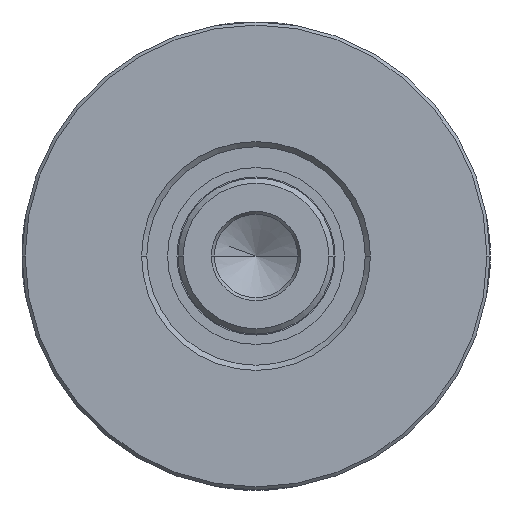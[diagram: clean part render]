
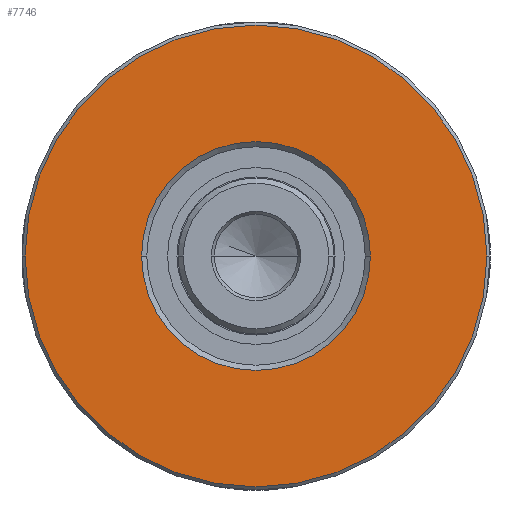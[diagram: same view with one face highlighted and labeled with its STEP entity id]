
A CAD part, left-side view. The second image highlights one B-rep face of the part: STEP entity #7746.
In plain terms, the highlighted planar face has unit normal (-1, 0, 0).
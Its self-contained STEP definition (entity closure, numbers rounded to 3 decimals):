
#7191=CARTESIAN_POINT('',(-3.,0.,0.));
#7192=DIRECTION('',(-1.,0.,0.));
#7193=DIRECTION('',(0.,1.,0.));
#7194=AXIS2_PLACEMENT_3D('',#7191,#7192,#7193);
#7199=CARTESIAN_POINT('',(-3.,0.,0.));
#7200=DIRECTION('',(1.,0.,0.));
#7201=DIRECTION('',(0.,1.,0.));
#7202=AXIS2_PLACEMENT_3D('',#7199,#7200,#7201);
#7207=CARTESIAN_POINT('',(-3.,0.,0.));
#7208=DIRECTION('',(1.,0.,0.));
#7209=DIRECTION('',(0.,1.,0.));
#7210=AXIS2_PLACEMENT_3D('',#7207,#7208,#7209);
#7229=CARTESIAN_POINT('',(-3.,0.,0.));
#7230=DIRECTION('',(-1.,0.,0.));
#7231=DIRECTION('',(0.,1.,0.));
#7232=AXIS2_PLACEMENT_3D('',#7229,#7230,#7231);
#7301=CARTESIAN_POINT('',(-3.,11.,0.));
#7302=VERTEX_POINT('',#7301);
#7303=CARTESIAN_POINT('',(-3.,-11.,0.));
#7304=VERTEX_POINT('',#7303);
#7305=CARTESIAN_POINT('',(-3.,22.2,0.));
#7306=VERTEX_POINT('',#7305);
#7307=CARTESIAN_POINT('',(-3.,-22.2,0.));
#7308=VERTEX_POINT('',#7307);
#7731=CARTESIAN_POINT('',(-3.,0.,0.));
#7732=DIRECTION('',(1.,0.,0.));
#7733=DIRECTION('',(0.,-1.,0.));
#7734=AXIS2_PLACEMENT_3D('',#7731,#7732,#7733);
#7735=PLANE('',#7734);
#7736=ORIENTED_EDGE('',*,*,#7710,.F.);
#7737=ORIENTED_EDGE('',*,*,#7726,.T.);
#7738=EDGE_LOOP('',(#7736,#7737));
#7739=FACE_OUTER_BOUND('',#7738,.F.);
#7741=ORIENTED_EDGE('',*,*,#7740,.F.);
#7743=ORIENTED_EDGE('',*,*,#7742,.T.);
#7744=EDGE_LOOP('',(#7741,#7743));
#7745=FACE_BOUND('',#7744,.F.);
#7195=CIRCLE('',#7194,22.2);
#7203=CIRCLE('',#7202,22.2);
#7211=CIRCLE('',#7210,11.);
#7233=CIRCLE('',#7232,11.);
#7710=EDGE_CURVE('',#7306,#7308,#7195,.T.);
#7726=EDGE_CURVE('',#7306,#7308,#7203,.T.);
#7740=EDGE_CURVE('',#7302,#7304,#7211,.T.);
#7742=EDGE_CURVE('',#7302,#7304,#7233,.T.);
#7746=ADVANCED_FACE('',(#7739,#7745),#7735,.F.);
